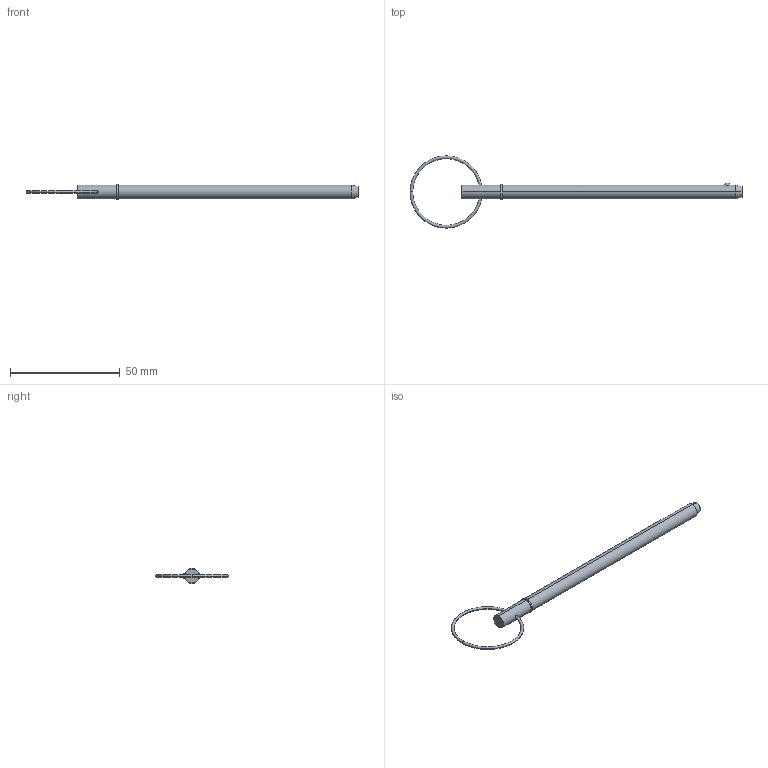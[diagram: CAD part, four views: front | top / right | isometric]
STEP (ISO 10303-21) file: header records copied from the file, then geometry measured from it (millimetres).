
FILE_DESCRIPTION (( 'STEP AP203' ), '1' );
FILE_NAME ('33014.W2540.step', '2024-11-04T08:24:17', ( '' ), ( '' ), 'SwSTEP 2.0', 'SolidWorks 2019', '' );
FILE_SCHEMA (( 'CONFIG_CONTROL_DESIGN' ));
Length unit declared in the file: millimetre
Products named in the file (3): Part1_33014.W2540; 33014.W2540; Part2_33014.W2540
Assembly tree (2 placements, depth 2):
  33014.W2540
    Part1_33014.W2540
    Part2_33014.W2540
Bounding box: 151.54 x 33.02 x 6.99 mm (x, y, z)
Volume: 4146.8 mm3; surface area: 3036.7 mm2
Topology: 2 solids, 2 shells, 22 faces, 43 edges, 26 vertices
Faces by surface type: torus 8, cylinder 6, plane 4, sphere 2, cone 2
Entity records: 975 total; most frequent: CARTESIAN_POINT 198, DIRECTION 120, ORIENTED_EDGE 86, AXIS2_PLACEMENT_3D 56, EDGE_CURVE 43, CIRCLE 29, EDGE_LOOP 27, VERTEX_POINT 26
